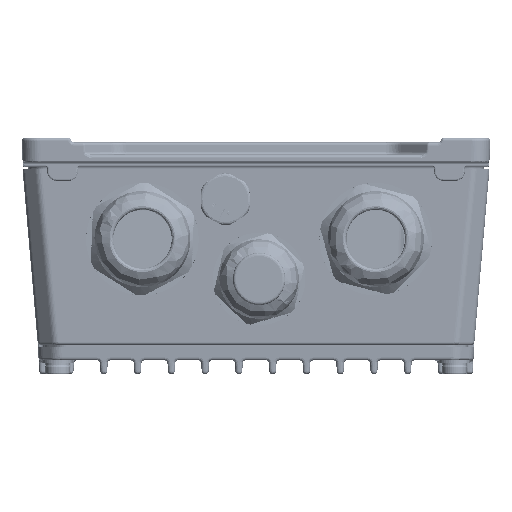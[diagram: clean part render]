
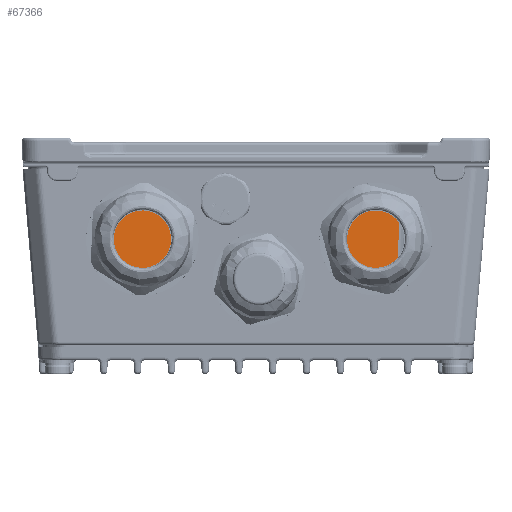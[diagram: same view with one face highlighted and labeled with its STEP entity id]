
A CAD part, left-side view. The second image highlights one B-rep face of the part: STEP entity #67366.
In plain terms, the highlighted planar face has unit normal (-1, 0, 0.026).
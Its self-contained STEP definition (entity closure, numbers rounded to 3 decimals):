
#19819 = DIRECTION ( 'NONE',  ( -0.026, -0.026, -0.999 ) ) ;
#25129 = DIRECTION ( 'NONE',  ( -1., 0., 0.026 ) ) ;
#35051 = VECTOR ( 'NONE', #263783, 1000. ) ;
#35755 = EDGE_CURVE ( 'NONE', #147167, #244233, #265791, .T. ) ;
#43612 = CARTESIAN_POINT ( 'NONE',  ( 231.468, 46.97, 43.771 ) ) ;
#62811 = CARTESIAN_POINT ( 'NONE',  ( 231.513, -47.015, 45.513 ) ) ;
#67366 = ADVANCED_FACE ( 'NONE', ( #238449 ), #252903, .T. ) ;
#69965 = EDGE_CURVE ( 'NONE', #111025, #126766, #208142, .T. ) ;
#84254 = VECTOR ( 'NONE', #19819, 1000. ) ;
#103008 = AXIS2_PLACEMENT_3D ( 'NONE', #120582, #25129, #116716 ) ;
#103638 = LINE ( 'NONE', #121135, #157025 ) ;
#111025 = VERTEX_POINT ( 'NONE', #243040 ) ;
#114332 = DIRECTION ( 'NONE',  ( 0.026, -0.026, 0.999 ) ) ;
#115216 = CARTESIAN_POINT ( 'NONE',  ( 231.513, 47.015, 45.513 ) ) ;
#116716 = DIRECTION ( 'NONE',  ( 0.026, 0., 1. ) ) ;
#120582 = CARTESIAN_POINT ( 'NONE',  ( 231.5, 0., 45. ) ) ;
#121135 = CARTESIAN_POINT ( 'NONE',  ( 230.413, -45.902, 3.487 ) ) ;
#126766 = VERTEX_POINT ( 'NONE', #62811 ) ;
#131315 = LINE ( 'NONE', #240935, #35051 ) ;
#146895 = ORIENTED_EDGE ( 'NONE', *, *, #251350, .T. ) ;
#147167 = VERTEX_POINT ( 'NONE', #115216 ) ;
#151843 = ORIENTED_EDGE ( 'NONE', *, *, #35755, .T. ) ;
#157025 = VECTOR ( 'NONE', #237450, 1000. ) ;
#181928 = CARTESIAN_POINT ( 'NONE',  ( 231.468, -46.97, 43.771 ) ) ;
#200639 = CARTESIAN_POINT ( 'NONE',  ( 230.413, 45.915, 3.487 ) ) ;
#208142 = LINE ( 'NONE', #181928, #290023 ) ;
#209940 = EDGE_CURVE ( 'NONE', #244233, #111025, #103638, .T. ) ;
#217468 = ORIENTED_EDGE ( 'NONE', *, *, #209940, .T. ) ;
#218255 = EDGE_LOOP ( 'NONE', ( #248680, #146895, #151843, #217468 ) ) ;
#237450 = DIRECTION ( 'NONE',  ( 0., -1., 0. ) ) ;
#238449 = FACE_OUTER_BOUND ( 'NONE', #218255, .T. ) ;
#240935 = CARTESIAN_POINT ( 'NONE',  ( 231.513, 47.028, 45.513 ) ) ;
#243040 = CARTESIAN_POINT ( 'NONE',  ( 230.413, -45.915, 3.487 ) ) ;
#244233 = VERTEX_POINT ( 'NONE', #200639 ) ;
#248680 = ORIENTED_EDGE ( 'NONE', *, *, #69965, .T. ) ;
#251350 = EDGE_CURVE ( 'NONE', #126766, #147167, #131315, .T. ) ;
#252903 = PLANE ( 'NONE',  #103008 ) ;
#263783 = DIRECTION ( 'NONE',  ( 0., 1., 0. ) ) ;
#265791 = LINE ( 'NONE', #43612, #84254 ) ;
#290023 = VECTOR ( 'NONE', #114332, 1000. ) ;
